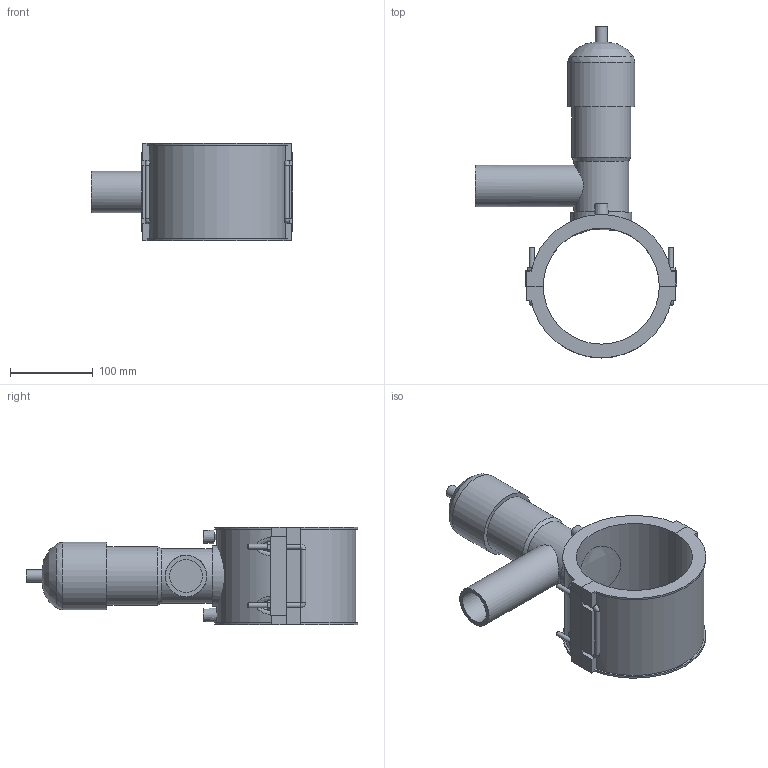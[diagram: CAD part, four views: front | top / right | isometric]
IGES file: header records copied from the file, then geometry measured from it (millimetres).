
Global section: file name: 495404140050.ipt; native system: Autodesk Inventor 2015; preprocessor: unknown; author: KIM; date: 20171106.094256; units: millimetre
Bounding box: 243 x 400.52 x 118 mm (x, y, z)
Volume: 1846705.9 mm3; surface area: 255214.5 mm2
Topology: 3 solids, 5 shells, 157 faces, 388 edges, 246 vertices
Faces by surface type: plane 93, cylinder 29, revolution 16, bspline 12, cone 7
Full cylindrical faces by diameter (mm): 4 x2, 6 x8, 14.64 x1, 50 x1, 65.88 x1, 70.76 x1, 73.2 x1, 81.333 x1
